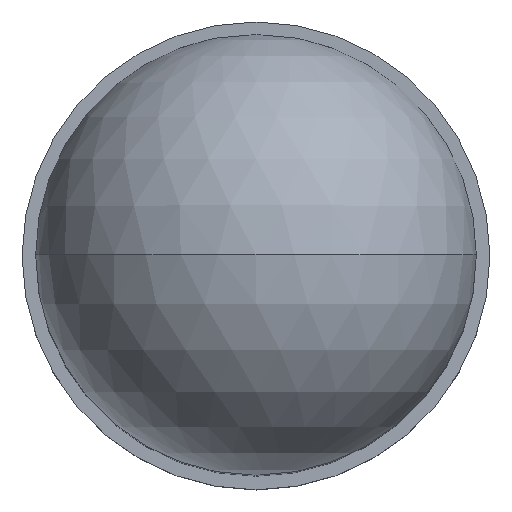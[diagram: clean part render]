
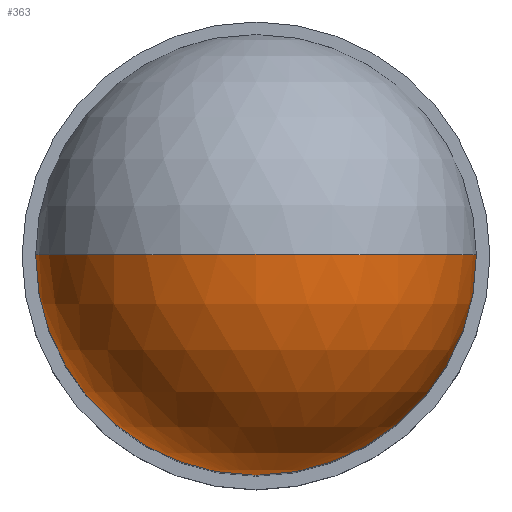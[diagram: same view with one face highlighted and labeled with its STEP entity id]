
A CAD part, top view. The second image highlights one B-rep face of the part: STEP entity #363.
In plain terms, the highlighted spherical face has radius 2.425 mm.
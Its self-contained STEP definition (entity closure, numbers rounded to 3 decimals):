
#266 = CARTESIAN_POINT ( 'NONE',  ( 0., 0., 10.12 ) ) ;
#267 = VERTEX_POINT ( 'NONE', #266 ) ;
#268 = CARTESIAN_POINT ( 'NONE',  ( -2.425, 0., 7.695 ) ) ;
#269 = VERTEX_POINT ( 'NONE', #268 ) ;
#270 = CARTESIAN_POINT ( 'NONE',  ( 0., 0., 7.695 ) ) ;
#271 = DIRECTION ( 'NONE',  ( 0., -1., 0. ) ) ;
#272 = DIRECTION ( 'NONE',  ( 1., 0., 0. ) ) ;
#273 = AXIS2_PLACEMENT_3D ( 'NONE', #270, #271, #272 ) ;
#274 = CIRCLE ( 'NONE', #273, 2.425) ;
#275 = EDGE_CURVE ( 'NONE', #267, #269, #274, .T. ) ;
#277 = CARTESIAN_POINT ( 'NONE',  ( 2.425, 0., 7.695 ) ) ;
#278 = VERTEX_POINT ( 'NONE', #277 ) ;
#279 = CARTESIAN_POINT ( 'NONE',  ( 0., 0., 7.695 ) ) ;
#280 = DIRECTION ( 'NONE',  ( 0., 1., 0. ) ) ;
#281 = DIRECTION ( 'NONE',  ( -1., 0., 0. ) ) ;
#282 = AXIS2_PLACEMENT_3D ( 'NONE', #279, #280, #281 ) ;
#283 = CIRCLE ( 'NONE', #282, 2.425) ;
#284 = EDGE_CURVE ( 'NONE', #267, #278, #283, .T. ) ;
#347 = ORIENTED_EDGE ( 'NONE', *, *, #284, .F. ) ;
#348 = ORIENTED_EDGE ( 'NONE', *, *, #275, .T. ) ;
#349 = CARTESIAN_POINT ( 'NONE',  ( 0., 0., 7.695 ) ) ;
#350 = DIRECTION ( 'NONE',  ( 0., 0., -1. ) ) ;
#351 = DIRECTION ( 'NONE',  ( 1., 0., 0. ) ) ;
#352 = AXIS2_PLACEMENT_3D ( 'NONE', #349, #350, #351 ) ;
#353 = CIRCLE ( 'NONE', #352, 2.425) ;
#354 = EDGE_CURVE ( 'NONE', #278, #269, #353, .T. ) ;
#355 = ORIENTED_EDGE ( 'NONE', *, *, #354, .F. ) ;
#356 = EDGE_LOOP ( 'NONE', ( #347, #348, #355 ) ) ;
#357 = FACE_OUTER_BOUND ( 'NONE', #356, .T. ) ;
#358 = CARTESIAN_POINT ( 'NONE',  ( 0., 0., 7.695 ) ) ;
#359 = DIRECTION ( 'NONE',  ( 0., -1., 0. ) ) ;
#360 = DIRECTION ( 'NONE',  ( 1., 0., 0. ) ) ;
#361 = AXIS2_PLACEMENT_3D ( 'NONE', #358, #359, #360 ) ;
#362 = SPHERICAL_SURFACE ( 'NONE', #361, 2.425) ;
#363 = ADVANCED_FACE ( 'NONE', ( #357 ), #362, .T. ) ;
